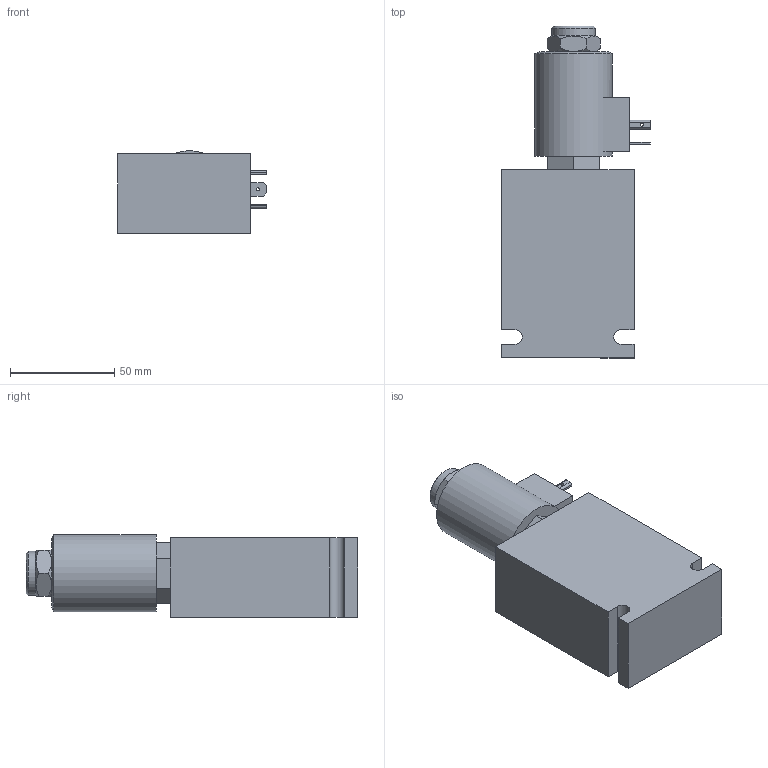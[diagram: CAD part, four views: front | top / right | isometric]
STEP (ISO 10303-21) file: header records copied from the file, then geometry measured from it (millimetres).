
FILE_DESCRIPTION( ( 'Unknown' ), '1' );
FILE_NAME( 'G:/Graphic Design/Graphic Design 2/Data Sheets/PROPORTIONAL CONTROLS/EE-P2A-A_B_C__ER/T-EGC2A.stp', 'Unknown', ( 'Unknown' ), ( 'Unknown' ), 'PSStep 17.0.49', 'Unknown', ' ' );
FILE_SCHEMA( ( 'AUTOMOTIVE_DESIGN { 1 0 10303 214 1 1 1 1 }' ) );
Length unit declared in the file: millimetre
Products named in the file (17): T-600205178; T-60.0205.178_Main; PT-EL-HC-TerminalConnectors; Assem1; T-EE-BODY; Compensator-Nose; PT-BK-A-H1-014H; PT-OR-2-014-N70A; PT-OR-3-908-N70A; B-DEGB4_ver_2
Assembly tree (17 placements, depth 3):
  Assem1
    T-EE-BODY
    Compensator-Nose
    Compensator-Nose
    Compensator-Nose
    Compensator-Nose
    Compensator-Nose
    PT-BK-A-H1-014H  x2
    PT-OR-2-014-N70A
    PT-OR-3-908-N70A
    B-DEGB4_ver_2
    T-600205178
      T-60.0205.178_Main
      PT-EL-HC-TerminalConnectors
      PT-EL-HC-TerminalConnectors
      PT-EL-HC-TerminalConnectors
      PT-EL-HC-TerminalConnectors
Bounding box: 71.33 x 159 x 39.6 mm (x, y, z)
Volume: 263254.3 mm3; surface area: 56880 mm2
Topology: 16 solids, 16 shells, 308 faces, 779 edges, 487 vertices
Faces by surface type: plane 162, cylinder 96, cone 42, torus 8
Full cylindrical faces by diameter (mm): 0.5 x1, 1 x1, 1.5 x3, 2 x16, 3 x6, 6.3 x3, 6.792 x2, 6.8 x2, 7.9 x1, 8.5 x1, 9.738 x1, 10.16 x1, 11 x1, 13.074 x1, 13.16 x2, 13.462 x1, 13.5 x1, 13.795 x1, 14 x2, 15 x4, 15.08 x1, 15.6 x3, 15.86 x2, 15.9 x2, 15.989 x1, 16.5 x3, 16.95 x1, 17.3 x1, 17.501 x1, 18.879 x1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
Entity records: 12197 total; most frequent: CARTESIAN_POINT 3151, DIRECTION 1236, ORIENTED_EDGE 1178, EDGE_CURVE 589, AXIS2_PLACEMENT_3D 517, EDGE_LOOP 485, VERTEX_POINT 433, FACE_OUTER_BOUND 389
